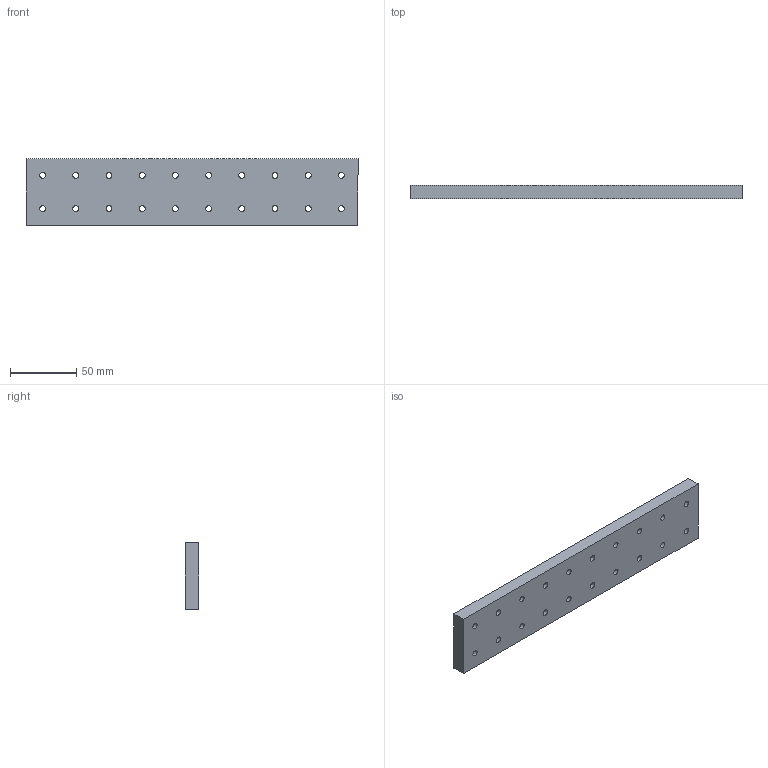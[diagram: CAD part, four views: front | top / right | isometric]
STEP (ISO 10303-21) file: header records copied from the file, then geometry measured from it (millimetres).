
FILE_DESCRIPTION(/* description */ (''),/* implementation_level */ '2;1');
FILE_NAME(/* name */ 'c-10x2.stp',/* time_stamp */ '2026-04-10T09:56:05+08:00',/* author */ ('32769'),/* organization */ (''),/* preprocessor_version */ 'ST-DEVELOPER v20',/* originating_system */ 'Autodesk Inventor 2025',/* authorisation */ '');
FILE_SCHEMA (('AUTOMOTIVE_DESIGN { 1 0 10303 214 3 1 1 }'));
Length unit declared in the file: millimetre
Products named in the file (1): c-10x2
Bounding box: 250 x 10 x 50 mm (x, y, z)
Volume: 121819.1 mm3; surface area: 33191.3 mm2
Topology: 1 solids, 1 shells, 26 faces, 72 edges, 48 vertices
Faces by surface type: cylinder 20, plane 6
Full cylindrical faces by diameter (mm): 4.5 x20
Entity records: 979 total; most frequent: DIRECTION 166, CARTESIAN_POINT 147, ORIENTED_EDGE 144, EDGE_CURVE 72, AXIS2_PLACEMENT_3D 67, EDGE_LOOP 66, VERTEX_POINT 48, FACE_BOUND 40
